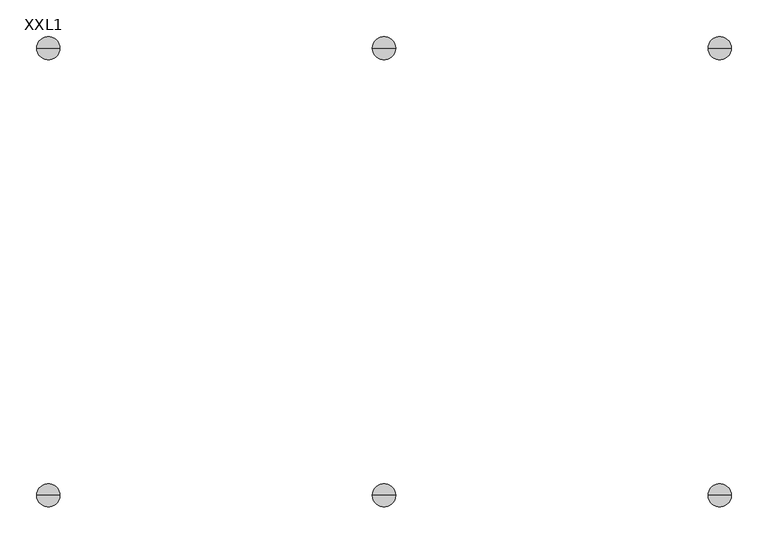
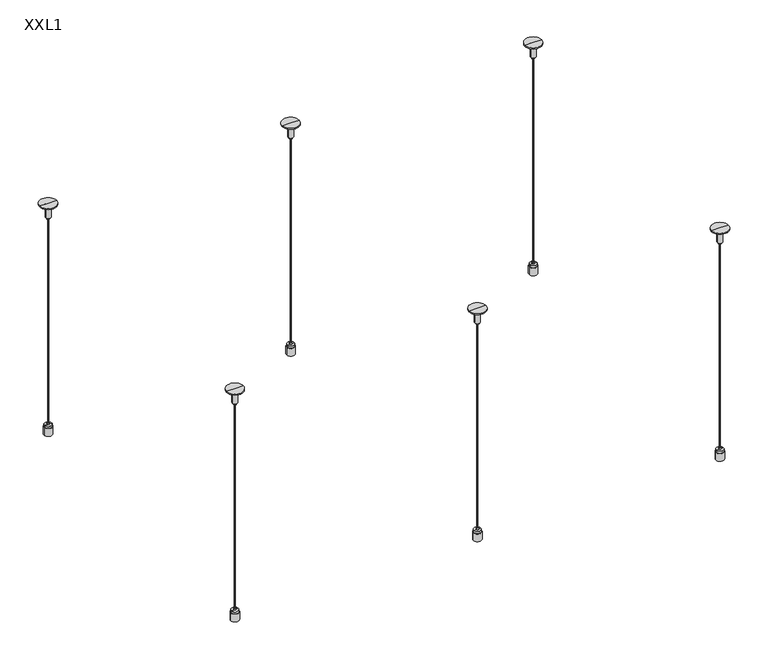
"""IFC4 building model written with IfcOpenShell, lengths in millimetres: proxy geometry, OWA Corpus : XXL1."""

from ifc_helpers import new_model, si_unit, point, frame, frame_2d, origin, place, context, project, spatial, polyline, circle_curve, trimmed, segment, composite_curve, outline, extrude, source, transform, mapped, element, save
from ifc_brep_helpers import plane_surface, cylinder_surface, revolved_surface, advanced_brep


def xxl1_c829c97f(model_context):
    return source(origin(), model_context, "Body", "SolidModel", [
        advanced_brep(
        [(481.5, -305.0, 0.0), (489.2406175, -305.0, 0.0), (473.7593825, -305.0, 0.0), (489.2406175, -305.0, 15.0), (473.7593825, -305.0, 15.0), (488.3156175, -305.0, 15.0), (474.6843825, -305.0, 15.0), (488.3156175, -305.0, 19.0), (474.6843825, -305.0, 19.0), (483.5656175, -305.0, 19.0), (479.4343825, -305.0, 19.0), (483.5656175, -305.0, 22.546183), (479.4343825, -305.0, 22.546183), (481.5, -305.0, 22.546183)],
        [
            (0, 1),
            (1, 2, circle_curve(frame((481.5, -305.0, 0.0), z_axis=(0.0, 0.0, -1.0), x_axis=(-1.0, 0.0, 0.0)), 7.7406175)),
            (2, 0),
            (2, 1, circle_curve(frame((481.5, -305.0, 0.0), z_axis=(0.0, 0.0, -1.0), x_axis=(-1.0, 0.0, 0.0)), 7.7406175)),
            (1, 3),
            (3, 4, circle_curve(frame((481.5, -305.0, 15.0), z_axis=(0.0, 0.0, -1.0), x_axis=(-1.0, 0.0, 0.0)), 7.7406175)),
            (4, 2),
            (4, 3, circle_curve(frame((481.5, -305.0, 15.0), z_axis=(0.0, 0.0, -1.0), x_axis=(-1.0, 0.0, 0.0)), 7.7406175)),
            (3, 5),
            (5, 6, circle_curve(frame((481.5, -305.0, 15.0), z_axis=(0.0, 0.0, -1.0), x_axis=(-1.0, 0.0, 0.0)), 6.8156175)),
            (6, 4),
            (6, 5, circle_curve(frame((481.5, -305.0, 15.0), z_axis=(0.0, 0.0, -1.0), x_axis=(-1.0, 0.0, 0.0)), 6.8156175)),
            (5, 7),
            (7, 8, circle_curve(frame((481.5, -305.0, 19.0), z_axis=(0.0, 0.0, -1.0), x_axis=(-1.0, 0.0, 0.0)), 6.8156175)),
            (8, 6),
            (8, 7, circle_curve(frame((481.5, -305.0, 19.0), z_axis=(0.0, 0.0, -1.0), x_axis=(-1.0, 0.0, 0.0)), 6.8156175)),
            (7, 9),
            (9, 10, circle_curve(frame((481.5, -305.0, 19.0), z_axis=(0.0, 0.0, -1.0), x_axis=(-1.0, 0.0, 0.0)), 2.0656175)),
            (10, 8),
            (10, 9, circle_curve(frame((481.5, -305.0, 19.0), z_axis=(0.0, 0.0, -1.0), x_axis=(-1.0, 0.0, 0.0)), 2.0656175)),
            (9, 11),
            (11, 12, circle_curve(frame((481.5, -305.0, 22.546183), z_axis=(0.0, 0.0, -1.0), x_axis=(-1.0, 0.0, 0.0)), 2.0656175)),
            (12, 10),
            (12, 11, circle_curve(frame((481.5, -305.0, 22.546183), z_axis=(0.0, 0.0, -1.0), x_axis=(-1.0, 0.0, 0.0)), 2.0656175)),
            (11, 13),
            (13, 12),
        ],
        [
            plane_surface(frame((481.5, -305.0, 0.0), z_axis=(0.0, 0.0, -1.0), x_axis=(-1.0, 0.0, 0.0))),
            cylinder_surface(frame((481.5, -305.0, -10.0), z_axis=(0.0, 0.0, -1.0), x_axis=(-1.0, 0.0, 0.0)), 7.7406175),
            plane_surface(frame((481.5, -305.0, 15.0), z_axis=(0.0, 0.0, 1.0), x_axis=(-1.0, 0.0, 0.0))),
            cylinder_surface(frame((481.5, -305.0, -10.0), z_axis=(0.0, 0.0, -1.0), x_axis=(-1.0, 0.0, 0.0)), 6.8156175),
            plane_surface(frame((481.5, -305.0, 19.0), z_axis=(0.0, 0.0, 1.0), x_axis=(-1.0, 0.0, 0.0))),
            cylinder_surface(frame((481.5, -305.0, -10.0), z_axis=(0.0, 0.0, -1.0), x_axis=(-1.0, 0.0, 0.0)), 2.0656175),
            plane_surface(frame((481.5, -305.0, 22.546183), z_axis=(0.0, 0.0, 1.0), x_axis=(-1.0, 0.0, 0.0))),
        ],
        [
            (0, [[1, 2, 3]]),
            (0, [[-3, 4, -1]]),
            (1, [[5, 6, 7, -2]]),
            (1, [[-7, 8, -5, -4]]),
            (2, [[9, 10, 11, -6]]),
            (2, [[-11, 12, -9, -8]]),
            (3, [[13, 14, 15, -10]]),
            (3, [[-15, 16, -13, -12]]),
            (4, [[17, 18, 19, -14]]),
            (4, [[-19, 20, -17, -16]]),
            (5, [[21, 22, 23, -18]]),
            (5, [[-23, 24, -21, -20]]),
            (6, [[25, 26, -22]]),
            (6, [[-26, -25, -24]]),
        ],
    ),
        advanced_brep(
        [(483.7384611, -305.0, 428.8211737), (483.8660547, -305.0, 432.8711737), (479.1339453, -305.0, 432.8711737), (479.2615389, -305.0, 428.8211737), (486.3660547, -305.0, 432.8711737), (476.6339453, -305.0, 432.8711737), (486.3660547, -305.0, 458.1211737), (476.6339453, -305.0, 458.1211737), (497.3660547, -305.0, 458.1211737), (465.6339453, -305.0, 458.1211737), (497.3660547, -305.0, 460.0), (465.6339453, -305.0, 460.0), (481.5, -305.0, 460.0), (481.5, -305.0, 428.8211737)],
        [
            (0, 1),
            (1, 2, circle_curve(frame((481.5, -305.0, 432.8711737), z_axis=(0.0, 0.0, -1.0), x_axis=(-1.0, 0.0, 0.0)), 2.3660547)),
            (2, 3),
            (3, 0, circle_curve(frame((481.5, -305.0, 428.8211737), z_axis=(0.0, 0.0, 1.0), x_axis=(-1.0, 0.0, 0.0)), 2.2384611)),
            (2, 1, circle_curve(frame((481.5, -305.0, 432.8711737), z_axis=(0.0, 0.0, -1.0), x_axis=(-1.0, 0.0, 0.0)), 2.3660547)),
            (0, 3, circle_curve(frame((481.5, -305.0, 428.8211737), z_axis=(0.0, 0.0, 1.0), x_axis=(-1.0, 0.0, 0.0)), 2.2384611)),
            (1, 4),
            (4, 5, circle_curve(frame((481.5, -305.0, 432.8711737), z_axis=(0.0, 0.0, -1.0), x_axis=(-1.0, 0.0, 0.0)), 4.8660547)),
            (5, 2),
            (5, 4, circle_curve(frame((481.5, -305.0, 432.8711737), z_axis=(0.0, 0.0, -1.0), x_axis=(-1.0, 0.0, 0.0)), 4.8660547)),
            (4, 6),
            (6, 7, circle_curve(frame((481.5, -305.0, 458.1211737), z_axis=(0.0, 0.0, -1.0), x_axis=(-1.0, 0.0, 0.0)), 4.8660547)),
            (7, 5),
            (7, 6, circle_curve(frame((481.5, -305.0, 458.1211737), z_axis=(0.0, 0.0, -1.0), x_axis=(-1.0, 0.0, 0.0)), 4.8660547)),
            (6, 8),
            (8, 9, circle_curve(frame((481.5, -305.0, 458.1211737), z_axis=(0.0, 0.0, -1.0), x_axis=(-1.0, 0.0, 0.0)), 15.8660547)),
            (9, 7),
            (9, 8, circle_curve(frame((481.5, -305.0, 458.1211737), z_axis=(0.0, 0.0, -1.0), x_axis=(-1.0, 0.0, 0.0)), 15.8660547)),
            (8, 10),
            (10, 11, circle_curve(frame((481.5, -305.0, 460.0), z_axis=(0.0, 0.0, -1.0), x_axis=(-1.0, 0.0, 0.0)), 15.8660547)),
            (11, 9),
            (11, 10, circle_curve(frame((481.5, -305.0, 460.0), z_axis=(0.0, 0.0, -1.0), x_axis=(-1.0, 0.0, 0.0)), 15.8660547)),
            (10, 12),
            (12, 11),
            (13, 0),
            (3, 13),
        ],
        [
            revolved_surface(polyline([(479.1339453, -305.0, 432.8711737), (479.2615389, -305.0, 428.8211737)]), (481.5, -305.0, 461.8401096), (0.0, 0.0, -1.0)),
            plane_surface(frame((481.5, -305.0, 432.8711737), z_axis=(0.0, 0.0, -1.0), x_axis=(-1.0, 0.0, 0.0))),
            cylinder_surface(frame((481.5, -305.0, 461.8401096), z_axis=(0.0, 0.0, -1.0), x_axis=(-1.0, 0.0, 0.0)), 4.8660547),
            plane_surface(frame((481.5, -305.0, 458.1211737), z_axis=(0.0, 0.0, -1.0), x_axis=(-1.0, 0.0, 0.0))),
            cylinder_surface(frame((481.5, -305.0, 461.8401096), z_axis=(0.0, 0.0, -1.0), x_axis=(-1.0, 0.0, 0.0)), 15.8660547),
            plane_surface(frame((481.5, -305.0, 460.0), z_axis=(0.0, 0.0, 1.0), x_axis=(-1.0, 0.0, 0.0))),
            plane_surface(frame((481.5, -305.0, 428.8211737), z_axis=(0.0, 0.0, -1.0), x_axis=(-1.0, 0.0, 0.0))),
        ],
        [
            (0, [[1, 2, 3, 4]]),
            (0, [[-3, 5, -1, 6]]),
            (1, [[7, 8, 9, -2]]),
            (1, [[-9, 10, -7, -5]]),
            (2, [[11, 12, 13, -8]]),
            (2, [[-13, 14, -11, -10]]),
            (3, [[15, 16, 17, -12]]),
            (3, [[-17, 18, -15, -14]]),
            (4, [[19, 20, 21, -16]]),
            (4, [[-21, 22, -19, -18]]),
            (5, [[23, 24, -20]]),
            (5, [[-24, -23, -22]]),
            (6, [[25, -4, 26]]),
            (6, [[-26, -6, -25]]),
        ],
    ),
        extrude(outline(composite_curve([segment(trimmed(circle_curve(frame_2d((481.5, -305.0)), 1.0), [point((480.5, -305.0))], [point((482.5, -305.0))], False, "CARTESIAN"), True, "CONTINUOUS"), segment(trimmed(circle_curve(frame_2d((481.5, -305.0)), 1.0), [point((482.5, -305.0))], [point((480.5, -305.0))], False, "CARTESIAN"), True, "CONTINUOUS")], self_intersect=False)), frame((0.0, 0.0, 22.546183), z_axis=(0.0, 0.0, 1.0), x_axis=(1.0, 0.0, 0.0)), (0.0, 0.0, 1.0), 406.2749908),
        advanced_brep(
        [(481.5, 305.0, 0.0), (473.7593825, 305.0, 0.0), (489.2406175, 305.0, 0.0), (473.7593825, 305.0, 15.0), (489.2406175, 305.0, 15.0), (474.6843825, 305.0, 15.0), (488.3156175, 305.0, 15.0), (474.6843825, 305.0, 19.0), (488.3156175, 305.0, 19.0), (479.4343825, 305.0, 19.0), (483.5656175, 305.0, 19.0), (479.4343825, 305.0, 22.546183), (483.5656175, 305.0, 22.546183), (481.5, 305.0, 22.546183)],
        [
            (0, 1),
            (1, 2, circle_curve(frame((481.5, 305.0, 0.0), z_axis=(0.0, 0.0, -1.0), x_axis=(-1.0, 0.0, 0.0)), 7.7406175)),
            (2, 0),
            (2, 1, circle_curve(frame((481.5, 305.0, 0.0), z_axis=(0.0, 0.0, -1.0), x_axis=(-1.0, 0.0, 0.0)), 7.7406175)),
            (1, 3),
            (3, 4, circle_curve(frame((481.5, 305.0, 15.0), z_axis=(0.0, 0.0, -1.0), x_axis=(-1.0, 0.0, 0.0)), 7.7406175)),
            (4, 2),
            (4, 3, circle_curve(frame((481.5, 305.0, 15.0), z_axis=(0.0, 0.0, -1.0), x_axis=(-1.0, 0.0, 0.0)), 7.7406175)),
            (3, 5),
            (5, 6, circle_curve(frame((481.5, 305.0, 15.0), z_axis=(0.0, 0.0, -1.0), x_axis=(-1.0, 0.0, 0.0)), 6.8156175)),
            (6, 4),
            (6, 5, circle_curve(frame((481.5, 305.0, 15.0), z_axis=(0.0, 0.0, -1.0), x_axis=(-1.0, 0.0, 0.0)), 6.8156175)),
            (5, 7),
            (7, 8, circle_curve(frame((481.5, 305.0, 19.0), z_axis=(0.0, 0.0, -1.0), x_axis=(-1.0, 0.0, 0.0)), 6.8156175)),
            (8, 6),
            (8, 7, circle_curve(frame((481.5, 305.0, 19.0), z_axis=(0.0, 0.0, -1.0), x_axis=(-1.0, 0.0, 0.0)), 6.8156175)),
            (7, 9),
            (9, 10, circle_curve(frame((481.5, 305.0, 19.0), z_axis=(0.0, 0.0, -1.0), x_axis=(-1.0, 0.0, 0.0)), 2.0656175)),
            (10, 8),
            (10, 9, circle_curve(frame((481.5, 305.0, 19.0), z_axis=(0.0, 0.0, -1.0), x_axis=(-1.0, 0.0, 0.0)), 2.0656175)),
            (9, 11),
            (11, 12, circle_curve(frame((481.5, 305.0, 22.546183), z_axis=(0.0, 0.0, -1.0), x_axis=(-1.0, 0.0, 0.0)), 2.0656175)),
            (12, 10),
            (12, 11, circle_curve(frame((481.5, 305.0, 22.546183), z_axis=(0.0, 0.0, -1.0), x_axis=(-1.0, 0.0, 0.0)), 2.0656175)),
            (11, 13),
            (13, 12),
        ],
        [
            plane_surface(frame((481.5, 305.0, 0.0), z_axis=(0.0, 0.0, -1.0), x_axis=(-1.0, 0.0, 0.0))),
            cylinder_surface(frame((481.5, 305.0, -10.0), z_axis=(0.0, 0.0, -1.0), x_axis=(-1.0, 0.0, 0.0)), 7.7406175),
            plane_surface(frame((481.5, 305.0, 15.0), z_axis=(0.0, 0.0, 1.0), x_axis=(-1.0, 0.0, 0.0))),
            cylinder_surface(frame((481.5, 305.0, -10.0), z_axis=(0.0, 0.0, -1.0), x_axis=(-1.0, 0.0, 0.0)), 6.8156175),
            plane_surface(frame((481.5, 305.0, 19.0), z_axis=(0.0, 0.0, 1.0), x_axis=(-1.0, 0.0, 0.0))),
            cylinder_surface(frame((481.5, 305.0, -10.0), z_axis=(0.0, 0.0, -1.0), x_axis=(-1.0, 0.0, 0.0)), 2.0656175),
            plane_surface(frame((481.5, 305.0, 22.546183), z_axis=(0.0, 0.0, 1.0), x_axis=(-1.0, 0.0, 0.0))),
        ],
        [
            (0, [[1, 2, 3]]),
            (0, [[-3, 4, -1]]),
            (1, [[-2, 5, 6, 7]]),
            (1, [[-4, -7, 8, -5]]),
            (2, [[-6, 9, 10, 11]]),
            (2, [[-8, -11, 12, -9]]),
            (3, [[-10, 13, 14, 15]]),
            (3, [[-12, -15, 16, -13]]),
            (4, [[-14, 17, 18, 19]]),
            (4, [[-16, -19, 20, -17]]),
            (5, [[-18, 21, 22, 23]]),
            (5, [[-20, -23, 24, -21]]),
            (6, [[-22, 25, 26]]),
            (6, [[-24, -26, -25]]),
        ],
    ),
        advanced_brep(
        [(483.7384611, 305.0, 428.8211737), (479.2615389, 305.0, 428.8211737), (479.1339453, 305.0, 432.8711737), (483.8660547, 305.0, 432.8711737), (476.6339453, 305.0, 432.8711737), (486.3660547, 305.0, 432.8711737), (476.6339453, 305.0, 458.1211737), (486.3660547, 305.0, 458.1211737), (465.6339453, 305.0, 458.1211737), (497.3660547, 305.0, 458.1211737), (465.6339453, 305.0, 460.0), (497.3660547, 305.0, 460.0), (481.5, 305.0, 460.0), (481.5, 305.0, 428.8211737)],
        [
            (0, 1, circle_curve(frame((481.5, 305.0, 428.8211737), z_axis=(0.0, 0.0, 1.0), x_axis=(-1.0, 0.0, 0.0)), 2.2384611)),
            (1, 2),
            (2, 3, circle_curve(frame((481.5, 305.0, 432.8711737), z_axis=(0.0, 0.0, -1.0), x_axis=(-1.0, 0.0, 0.0)), 2.3660547)),
            (3, 0),
            (1, 0, circle_curve(frame((481.5, 305.0, 428.8211737), z_axis=(0.0, 0.0, 1.0), x_axis=(-1.0, 0.0, 0.0)), 2.2384611)),
            (3, 2, circle_curve(frame((481.5, 305.0, 432.8711737), z_axis=(0.0, 0.0, -1.0), x_axis=(-1.0, 0.0, 0.0)), 2.3660547)),
            (2, 4),
            (4, 5, circle_curve(frame((481.5, 305.0, 432.8711737), z_axis=(0.0, 0.0, -1.0), x_axis=(-1.0, 0.0, 0.0)), 4.8660547)),
            (5, 3),
            (5, 4, circle_curve(frame((481.5, 305.0, 432.8711737), z_axis=(0.0, 0.0, -1.0), x_axis=(-1.0, 0.0, 0.0)), 4.8660547)),
            (4, 6),
            (6, 7, circle_curve(frame((481.5, 305.0, 458.1211737), z_axis=(0.0, 0.0, -1.0), x_axis=(-1.0, 0.0, 0.0)), 4.8660547)),
            (7, 5),
            (7, 6, circle_curve(frame((481.5, 305.0, 458.1211737), z_axis=(0.0, 0.0, -1.0), x_axis=(-1.0, 0.0, 0.0)), 4.8660547)),
            (6, 8),
            (8, 9, circle_curve(frame((481.5, 305.0, 458.1211737), z_axis=(0.0, 0.0, -1.0), x_axis=(-1.0, 0.0, 0.0)), 15.8660547)),
            (9, 7),
            (9, 8, circle_curve(frame((481.5, 305.0, 458.1211737), z_axis=(0.0, 0.0, -1.0), x_axis=(-1.0, 0.0, 0.0)), 15.8660547)),
            (8, 10),
            (10, 11, circle_curve(frame((481.5, 305.0, 460.0), z_axis=(0.0, 0.0, -1.0), x_axis=(-1.0, 0.0, 0.0)), 15.8660547)),
            (11, 9),
            (11, 10, circle_curve(frame((481.5, 305.0, 460.0), z_axis=(0.0, 0.0, -1.0), x_axis=(-1.0, 0.0, 0.0)), 15.8660547)),
            (10, 12),
            (12, 11),
            (13, 1),
            (0, 13),
        ],
        [
            revolved_surface(polyline([(479.1339453, 305.0, 432.8711737), (479.2615389, 305.0, 428.8211737)]), (481.5, 305.0, 461.8401096), (0.0, 0.0, -1.0)),
            plane_surface(frame((481.5, 305.0, 432.8711737), z_axis=(0.0, 0.0, -1.0), x_axis=(-1.0, 0.0, 0.0))),
            cylinder_surface(frame((481.5, 305.0, 461.8401096), z_axis=(0.0, 0.0, -1.0), x_axis=(-1.0, 0.0, 0.0)), 4.8660547),
            plane_surface(frame((481.5, 305.0, 458.1211737), z_axis=(0.0, 0.0, -1.0), x_axis=(-1.0, 0.0, 0.0))),
            cylinder_surface(frame((481.5, 305.0, 461.8401096), z_axis=(0.0, 0.0, -1.0), x_axis=(-1.0, 0.0, 0.0)), 15.8660547),
            plane_surface(frame((481.5, 305.0, 460.0), z_axis=(0.0, 0.0, 1.0), x_axis=(-1.0, 0.0, 0.0))),
            plane_surface(frame((481.5, 305.0, 428.8211737), z_axis=(0.0, 0.0, -1.0), x_axis=(-1.0, 0.0, 0.0))),
        ],
        [
            (0, [[1, 2, 3, 4]]),
            (0, [[5, -4, 6, -2]]),
            (1, [[-3, 7, 8, 9]]),
            (1, [[-6, -9, 10, -7]]),
            (2, [[-8, 11, 12, 13]]),
            (2, [[-10, -13, 14, -11]]),
            (3, [[-12, 15, 16, 17]]),
            (3, [[-14, -17, 18, -15]]),
            (4, [[-16, 19, 20, 21]]),
            (4, [[-18, -21, 22, -19]]),
            (5, [[-20, 23, 24]]),
            (5, [[-22, -24, -23]]),
            (6, [[25, -1, 26]]),
            (6, [[-26, -5, -25]]),
        ],
    ),
        extrude(outline(composite_curve([segment(trimmed(circle_curve(frame_2d((481.5, 305.0)), 1.0), [point((480.5, 305.0))], [point((482.5, 305.0))], False, "CARTESIAN"), True, "CONTINUOUS"), segment(trimmed(circle_curve(frame_2d((481.5, 305.0)), 1.0), [point((482.5, 305.0))], [point((480.5, 305.0))], False, "CARTESIAN"), True, "CONTINUOUS")], self_intersect=False)), frame((0.0, 0.0, 22.546183), z_axis=(0.0, 0.0, 1.0), x_axis=(1.0, 0.0, 0.0)), (0.0, 0.0, 1.0), 406.2749908),
        advanced_brep(
        [(24.0, -305.0, 0.0), (31.7406175, -305.0, 0.0), (16.2593825, -305.0, 0.0), (31.7406175, -305.0, 15.0), (16.2593825, -305.0, 15.0), (30.8156175, -305.0, 15.0), (17.1843825, -305.0, 15.0), (30.8156175, -305.0, 19.0), (17.1843825, -305.0, 19.0), (26.0656175, -305.0, 19.0), (21.9343825, -305.0, 19.0), (26.0656175, -305.0, 22.546183), (21.9343825, -305.0, 22.546183), (24.0, -305.0, 22.546183)],
        [
            (0, 1),
            (1, 2, circle_curve(frame((24.0, -305.0, 0.0), z_axis=(0.0, 0.0, -1.0), x_axis=(-1.0, 0.0, 0.0)), 7.7406175)),
            (2, 0),
            (2, 1, circle_curve(frame((24.0, -305.0, 0.0), z_axis=(0.0, 0.0, -1.0), x_axis=(-1.0, 0.0, 0.0)), 7.7406175)),
            (1, 3),
            (3, 4, circle_curve(frame((24.0, -305.0, 15.0), z_axis=(0.0, 0.0, -1.0), x_axis=(-1.0, 0.0, 0.0)), 7.7406175)),
            (4, 2),
            (4, 3, circle_curve(frame((24.0, -305.0, 15.0), z_axis=(0.0, 0.0, -1.0), x_axis=(-1.0, 0.0, 0.0)), 7.7406175)),
            (3, 5),
            (5, 6, circle_curve(frame((24.0, -305.0, 15.0), z_axis=(0.0, 0.0, -1.0), x_axis=(-1.0, 0.0, 0.0)), 6.8156175)),
            (6, 4),
            (6, 5, circle_curve(frame((24.0, -305.0, 15.0), z_axis=(0.0, 0.0, -1.0), x_axis=(-1.0, 0.0, 0.0)), 6.8156175)),
            (5, 7),
            (7, 8, circle_curve(frame((24.0, -305.0, 19.0), z_axis=(0.0, 0.0, -1.0), x_axis=(-1.0, 0.0, 0.0)), 6.8156175)),
            (8, 6),
            (8, 7, circle_curve(frame((24.0, -305.0, 19.0), z_axis=(0.0, 0.0, -1.0), x_axis=(-1.0, 0.0, 0.0)), 6.8156175)),
            (7, 9),
            (9, 10, circle_curve(frame((24.0, -305.0, 19.0), z_axis=(0.0, 0.0, -1.0), x_axis=(-1.0, 0.0, 0.0)), 2.0656175)),
            (10, 8),
            (10, 9, circle_curve(frame((24.0, -305.0, 19.0), z_axis=(0.0, 0.0, -1.0), x_axis=(-1.0, 0.0, 0.0)), 2.0656175)),
            (9, 11),
            (11, 12, circle_curve(frame((24.0, -305.0, 22.546183), z_axis=(0.0, 0.0, -1.0), x_axis=(-1.0, 0.0, 0.0)), 2.0656175)),
            (12, 10),
            (12, 11, circle_curve(frame((24.0, -305.0, 22.546183), z_axis=(0.0, 0.0, -1.0), x_axis=(-1.0, 0.0, 0.0)), 2.0656175)),
            (11, 13),
            (13, 12),
        ],
        [
            plane_surface(frame((24.0, -305.0, 0.0), z_axis=(0.0, 0.0, -1.0), x_axis=(-1.0, 0.0, 0.0))),
            cylinder_surface(frame((24.0, -305.0, -10.0), z_axis=(0.0, 0.0, -1.0), x_axis=(-1.0, 0.0, 0.0)), 7.7406175),
            plane_surface(frame((24.0, -305.0, 15.0), z_axis=(0.0, 0.0, 1.0), x_axis=(-1.0, 0.0, 0.0))),
            cylinder_surface(frame((24.0, -305.0, -10.0), z_axis=(0.0, 0.0, -1.0), x_axis=(-1.0, 0.0, 0.0)), 6.8156175),
            plane_surface(frame((24.0, -305.0, 19.0), z_axis=(0.0, 0.0, 1.0), x_axis=(-1.0, 0.0, 0.0))),
            cylinder_surface(frame((24.0, -305.0, -10.0), z_axis=(0.0, 0.0, -1.0), x_axis=(-1.0, 0.0, 0.0)), 2.0656175),
            plane_surface(frame((24.0, -305.0, 22.546183), z_axis=(0.0, 0.0, 1.0), x_axis=(-1.0, 0.0, 0.0))),
        ],
        [
            (0, [[1, 2, 3]]),
            (0, [[-3, 4, -1]]),
            (1, [[5, 6, 7, -2]]),
            (1, [[-7, 8, -5, -4]]),
            (2, [[9, 10, 11, -6]]),
            (2, [[-11, 12, -9, -8]]),
            (3, [[13, 14, 15, -10]]),
            (3, [[-15, 16, -13, -12]]),
            (4, [[17, 18, 19, -14]]),
            (4, [[-19, 20, -17, -16]]),
            (5, [[21, 22, 23, -18]]),
            (5, [[-23, 24, -21, -20]]),
            (6, [[25, 26, -22]]),
            (6, [[-26, -25, -24]]),
        ],
    ),
        advanced_brep(
        [(26.2384611, -305.0, 428.8211737), (26.3660547, -305.0, 432.8711737), (21.6339453, -305.0, 432.8711737), (21.7615389, -305.0, 428.8211737), (28.8660547, -305.0, 432.8711737), (19.1339453, -305.0, 432.8711737), (28.8660547, -305.0, 458.1211737), (19.1339453, -305.0, 458.1211737), (39.8660547, -305.0, 458.1211737), (8.1339453, -305.0, 458.1211737), (39.8660547, -305.0, 460.0), (8.1339453, -305.0, 460.0), (24.0, -305.0, 460.0), (24.0, -305.0, 428.8211737)],
        [
            (0, 1),
            (1, 2, circle_curve(frame((24.0, -305.0, 432.8711737), z_axis=(0.0, 0.0, -1.0), x_axis=(-1.0, 0.0, 0.0)), 2.3660547)),
            (2, 3),
            (3, 0, circle_curve(frame((24.0, -305.0, 428.8211737), z_axis=(0.0, 0.0, 1.0), x_axis=(-1.0, 0.0, 0.0)), 2.2384611)),
            (2, 1, circle_curve(frame((24.0, -305.0, 432.8711737), z_axis=(0.0, 0.0, -1.0), x_axis=(-1.0, 0.0, 0.0)), 2.3660547)),
            (0, 3, circle_curve(frame((24.0, -305.0, 428.8211737), z_axis=(0.0, 0.0, 1.0), x_axis=(-1.0, 0.0, 0.0)), 2.2384611)),
            (1, 4),
            (4, 5, circle_curve(frame((24.0, -305.0, 432.8711737), z_axis=(0.0, 0.0, -1.0), x_axis=(-1.0, 0.0, 0.0)), 4.8660547)),
            (5, 2),
            (5, 4, circle_curve(frame((24.0, -305.0, 432.8711737), z_axis=(0.0, 0.0, -1.0), x_axis=(-1.0, 0.0, 0.0)), 4.8660547)),
            (4, 6),
            (6, 7, circle_curve(frame((24.0, -305.0, 458.1211737), z_axis=(0.0, 0.0, -1.0), x_axis=(-1.0, 0.0, 0.0)), 4.8660547)),
            (7, 5),
            (7, 6, circle_curve(frame((24.0, -305.0, 458.1211737), z_axis=(0.0, 0.0, -1.0), x_axis=(-1.0, 0.0, 0.0)), 4.8660547)),
            (6, 8),
            (8, 9, circle_curve(frame((24.0, -305.0, 458.1211737), z_axis=(0.0, 0.0, -1.0), x_axis=(-1.0, 0.0, 0.0)), 15.8660547)),
            (9, 7),
            (9, 8, circle_curve(frame((24.0, -305.0, 458.1211737), z_axis=(0.0, 0.0, -1.0), x_axis=(-1.0, 0.0, 0.0)), 15.8660547)),
            (8, 10),
            (10, 11, circle_curve(frame((24.0, -305.0, 460.0), z_axis=(0.0, 0.0, -1.0), x_axis=(-1.0, 0.0, 0.0)), 15.8660547)),
            (11, 9),
            (11, 10, circle_curve(frame((24.0, -305.0, 460.0), z_axis=(0.0, 0.0, -1.0), x_axis=(-1.0, 0.0, 0.0)), 15.8660547)),
            (10, 12),
            (12, 11),
            (13, 0),
            (3, 13),
        ],
        [
            revolved_surface(polyline([(21.6339453, -305.0, 432.8711737), (21.7615389, -305.0, 428.8211737)]), (24.0, -305.0, 461.8401096), (0.0, 0.0, -1.0)),
            plane_surface(frame((24.0, -305.0, 432.8711737), z_axis=(0.0, 0.0, -1.0), x_axis=(-1.0, 0.0, 0.0))),
            cylinder_surface(frame((24.0, -305.0, 461.8401096), z_axis=(0.0, 0.0, -1.0), x_axis=(-1.0, 0.0, 0.0)), 4.8660547),
            plane_surface(frame((24.0, -305.0, 458.1211737), z_axis=(0.0, 0.0, -1.0), x_axis=(-1.0, 0.0, 0.0))),
            cylinder_surface(frame((24.0, -305.0, 461.8401096), z_axis=(0.0, 0.0, -1.0), x_axis=(-1.0, 0.0, 0.0)), 15.8660547),
            plane_surface(frame((24.0, -305.0, 460.0), z_axis=(0.0, 0.0, 1.0), x_axis=(-1.0, 0.0, 0.0))),
            plane_surface(frame((24.0, -305.0, 428.8211737), z_axis=(0.0, 0.0, -1.0), x_axis=(-1.0, 0.0, 0.0))),
        ],
        [
            (0, [[1, 2, 3, 4]]),
            (0, [[-3, 5, -1, 6]]),
            (1, [[7, 8, 9, -2]]),
            (1, [[-9, 10, -7, -5]]),
            (2, [[11, 12, 13, -8]]),
            (2, [[-13, 14, -11, -10]]),
            (3, [[15, 16, 17, -12]]),
            (3, [[-17, 18, -15, -14]]),
            (4, [[19, 20, 21, -16]]),
            (4, [[-21, 22, -19, -18]]),
            (5, [[23, 24, -20]]),
            (5, [[-24, -23, -22]]),
            (6, [[25, -4, 26]]),
            (6, [[-26, -6, -25]]),
        ],
    ),
        extrude(outline(composite_curve([segment(trimmed(circle_curve(frame_2d((24.0, -305.0)), 1.0), [point((23.0, -305.0))], [point((25.0, -305.0))], False, "CARTESIAN"), True, "CONTINUOUS"), segment(trimmed(circle_curve(frame_2d((24.0, -305.0)), 1.0), [point((25.0, -305.0))], [point((23.0, -305.0))], False, "CARTESIAN"), True, "CONTINUOUS")], self_intersect=False)), frame((0.0, 0.0, 22.546183), z_axis=(0.0, 0.0, 1.0), x_axis=(1.0, 0.0, 0.0)), (0.0, 0.0, 1.0), 406.2749908),
        advanced_brep(
        [(24.0, 305.0, 0.0), (16.2593825, 305.0, 0.0), (31.7406175, 305.0, 0.0), (16.2593825, 305.0, 15.0), (31.7406175, 305.0, 15.0), (17.1843825, 305.0, 15.0), (30.8156175, 305.0, 15.0), (17.1843825, 305.0, 19.0), (30.8156175, 305.0, 19.0), (21.9343825, 305.0, 19.0), (26.0656175, 305.0, 19.0), (21.9343825, 305.0, 22.546183), (26.0656175, 305.0, 22.546183), (24.0, 305.0, 22.546183)],
        [
            (0, 1),
            (1, 2, circle_curve(frame((24.0, 305.0, 0.0), z_axis=(0.0, 0.0, -1.0), x_axis=(-1.0, 0.0, 0.0)), 7.7406175)),
            (2, 0),
            (2, 1, circle_curve(frame((24.0, 305.0, 0.0), z_axis=(0.0, 0.0, -1.0), x_axis=(-1.0, 0.0, 0.0)), 7.7406175)),
            (1, 3),
            (3, 4, circle_curve(frame((24.0, 305.0, 15.0), z_axis=(0.0, 0.0, -1.0), x_axis=(-1.0, 0.0, 0.0)), 7.7406175)),
            (4, 2),
            (4, 3, circle_curve(frame((24.0, 305.0, 15.0), z_axis=(0.0, 0.0, -1.0), x_axis=(-1.0, 0.0, 0.0)), 7.7406175)),
            (3, 5),
            (5, 6, circle_curve(frame((24.0, 305.0, 15.0), z_axis=(0.0, 0.0, -1.0), x_axis=(-1.0, 0.0, 0.0)), 6.8156175)),
            (6, 4),
            (6, 5, circle_curve(frame((24.0, 305.0, 15.0), z_axis=(0.0, 0.0, -1.0), x_axis=(-1.0, 0.0, 0.0)), 6.8156175)),
            (5, 7),
            (7, 8, circle_curve(frame((24.0, 305.0, 19.0), z_axis=(0.0, 0.0, -1.0), x_axis=(-1.0, 0.0, 0.0)), 6.8156175)),
            (8, 6),
            (8, 7, circle_curve(frame((24.0, 305.0, 19.0), z_axis=(0.0, 0.0, -1.0), x_axis=(-1.0, 0.0, 0.0)), 6.8156175)),
            (7, 9),
            (9, 10, circle_curve(frame((24.0, 305.0, 19.0), z_axis=(0.0, 0.0, -1.0), x_axis=(-1.0, 0.0, 0.0)), 2.0656175)),
            (10, 8),
            (10, 9, circle_curve(frame((24.0, 305.0, 19.0), z_axis=(0.0, 0.0, -1.0), x_axis=(-1.0, 0.0, 0.0)), 2.0656175)),
            (9, 11),
            (11, 12, circle_curve(frame((24.0, 305.0, 22.546183), z_axis=(0.0, 0.0, -1.0), x_axis=(-1.0, 0.0, 0.0)), 2.0656175)),
            (12, 10),
            (12, 11, circle_curve(frame((24.0, 305.0, 22.546183), z_axis=(0.0, 0.0, -1.0), x_axis=(-1.0, 0.0, 0.0)), 2.0656175)),
            (11, 13),
            (13, 12),
        ],
        [
            plane_surface(frame((24.0, 305.0, 0.0), z_axis=(0.0, 0.0, -1.0), x_axis=(-1.0, 0.0, 0.0))),
            cylinder_surface(frame((24.0, 305.0, -10.0), z_axis=(0.0, 0.0, -1.0), x_axis=(-1.0, 0.0, 0.0)), 7.7406175),
            plane_surface(frame((24.0, 305.0, 15.0), z_axis=(0.0, 0.0, 1.0), x_axis=(-1.0, 0.0, 0.0))),
            cylinder_surface(frame((24.0, 305.0, -10.0), z_axis=(0.0, 0.0, -1.0), x_axis=(-1.0, 0.0, 0.0)), 6.8156175),
            plane_surface(frame((24.0, 305.0, 19.0), z_axis=(0.0, 0.0, 1.0), x_axis=(-1.0, 0.0, 0.0))),
            cylinder_surface(frame((24.0, 305.0, -10.0), z_axis=(0.0, 0.0, -1.0), x_axis=(-1.0, 0.0, 0.0)), 2.0656175),
            plane_surface(frame((24.0, 305.0, 22.546183), z_axis=(0.0, 0.0, 1.0), x_axis=(-1.0, 0.0, 0.0))),
        ],
        [
            (0, [[1, 2, 3]]),
            (0, [[-3, 4, -1]]),
            (1, [[-2, 5, 6, 7]]),
            (1, [[-4, -7, 8, -5]]),
            (2, [[-6, 9, 10, 11]]),
            (2, [[-8, -11, 12, -9]]),
            (3, [[-10, 13, 14, 15]]),
            (3, [[-12, -15, 16, -13]]),
            (4, [[-14, 17, 18, 19]]),
            (4, [[-16, -19, 20, -17]]),
            (5, [[-18, 21, 22, 23]]),
            (5, [[-20, -23, 24, -21]]),
            (6, [[-22, 25, 26]]),
            (6, [[-24, -26, -25]]),
        ],
    ),
        advanced_brep(
        [(26.2384611, 305.0, 428.8211737), (21.7615389, 305.0, 428.8211737), (21.6339453, 305.0, 432.8711737), (26.3660547, 305.0, 432.8711737), (19.1339453, 305.0, 432.8711737), (28.8660547, 305.0, 432.8711737), (19.1339453, 305.0, 458.1211737), (28.8660547, 305.0, 458.1211737), (8.1339453, 305.0, 458.1211737), (39.8660547, 305.0, 458.1211737), (8.1339453, 305.0, 460.0), (39.8660547, 305.0, 460.0), (24.0, 305.0, 460.0), (24.0, 305.0, 428.8211737)],
        [
            (0, 1, circle_curve(frame((24.0, 305.0, 428.8211737), z_axis=(0.0, 0.0, 1.0), x_axis=(-1.0, 0.0, 0.0)), 2.2384611)),
            (1, 2),
            (2, 3, circle_curve(frame((24.0, 305.0, 432.8711737), z_axis=(0.0, 0.0, -1.0), x_axis=(-1.0, 0.0, 0.0)), 2.3660547)),
            (3, 0),
            (1, 0, circle_curve(frame((24.0, 305.0, 428.8211737), z_axis=(0.0, 0.0, 1.0), x_axis=(-1.0, 0.0, 0.0)), 2.2384611)),
            (3, 2, circle_curve(frame((24.0, 305.0, 432.8711737), z_axis=(0.0, 0.0, -1.0), x_axis=(-1.0, 0.0, 0.0)), 2.3660547)),
            (2, 4),
            (4, 5, circle_curve(frame((24.0, 305.0, 432.8711737), z_axis=(0.0, 0.0, -1.0), x_axis=(-1.0, 0.0, 0.0)), 4.8660547)),
            (5, 3),
            (5, 4, circle_curve(frame((24.0, 305.0, 432.8711737), z_axis=(0.0, 0.0, -1.0), x_axis=(-1.0, 0.0, 0.0)), 4.8660547)),
            (4, 6),
            (6, 7, circle_curve(frame((24.0, 305.0, 458.1211737), z_axis=(0.0, 0.0, -1.0), x_axis=(-1.0, 0.0, 0.0)), 4.8660547)),
            (7, 5),
            (7, 6, circle_curve(frame((24.0, 305.0, 458.1211737), z_axis=(0.0, 0.0, -1.0), x_axis=(-1.0, 0.0, 0.0)), 4.8660547)),
            (6, 8),
            (8, 9, circle_curve(frame((24.0, 305.0, 458.1211737), z_axis=(0.0, 0.0, -1.0), x_axis=(-1.0, 0.0, 0.0)), 15.8660547)),
            (9, 7),
            (9, 8, circle_curve(frame((24.0, 305.0, 458.1211737), z_axis=(0.0, 0.0, -1.0), x_axis=(-1.0, 0.0, 0.0)), 15.8660547)),
            (8, 10),
            (10, 11, circle_curve(frame((24.0, 305.0, 460.0), z_axis=(0.0, 0.0, -1.0), x_axis=(-1.0, 0.0, 0.0)), 15.8660547)),
            (11, 9),
            (11, 10, circle_curve(frame((24.0, 305.0, 460.0), z_axis=(0.0, 0.0, -1.0), x_axis=(-1.0, 0.0, 0.0)), 15.8660547)),
            (10, 12),
            (12, 11),
            (13, 1),
            (0, 13),
        ],
        [
            revolved_surface(polyline([(21.6339453, 305.0, 432.8711737), (21.7615389, 305.0, 428.8211737)]), (24.0, 305.0, 461.8401096), (0.0, 0.0, -1.0)),
            plane_surface(frame((24.0, 305.0, 432.8711737), z_axis=(0.0, 0.0, -1.0), x_axis=(-1.0, 0.0, 0.0))),
            cylinder_surface(frame((24.0, 305.0, 461.8401096), z_axis=(0.0, 0.0, -1.0), x_axis=(-1.0, 0.0, 0.0)), 4.8660547),
            plane_surface(frame((24.0, 305.0, 458.1211737), z_axis=(0.0, 0.0, -1.0), x_axis=(-1.0, 0.0, 0.0))),
            cylinder_surface(frame((24.0, 305.0, 461.8401096), z_axis=(0.0, 0.0, -1.0), x_axis=(-1.0, 0.0, 0.0)), 15.8660547),
            plane_surface(frame((24.0, 305.0, 460.0), z_axis=(0.0, 0.0, 1.0), x_axis=(-1.0, 0.0, 0.0))),
            plane_surface(frame((24.0, 305.0, 428.8211737), z_axis=(0.0, 0.0, -1.0), x_axis=(-1.0, 0.0, 0.0))),
        ],
        [
            (0, [[1, 2, 3, 4]]),
            (0, [[5, -4, 6, -2]]),
            (1, [[-3, 7, 8, 9]]),
            (1, [[-6, -9, 10, -7]]),
            (2, [[-8, 11, 12, 13]]),
            (2, [[-10, -13, 14, -11]]),
            (3, [[-12, 15, 16, 17]]),
            (3, [[-14, -17, 18, -15]]),
            (4, [[-16, 19, 20, 21]]),
            (4, [[-18, -21, 22, -19]]),
            (5, [[-20, 23, 24]]),
            (5, [[-22, -24, -23]]),
            (6, [[25, -1, 26]]),
            (6, [[-26, -5, -25]]),
        ],
    ),
        extrude(outline(composite_curve([segment(trimmed(circle_curve(frame_2d((24.0, 305.0)), 1.0), [point((23.0, 305.0))], [point((25.0, 305.0))], False, "CARTESIAN"), True, "CONTINUOUS"), segment(trimmed(circle_curve(frame_2d((24.0, 305.0)), 1.0), [point((25.0, 305.0))], [point((23.0, 305.0))], False, "CARTESIAN"), True, "CONTINUOUS")], self_intersect=False)), frame((0.0, 0.0, 22.546183), z_axis=(0.0, 0.0, 1.0), x_axis=(1.0, 0.0, 0.0)), (0.0, 0.0, 1.0), 406.2749908),
        advanced_brep(
        [(-433.5, -305.0, 0.0), (-425.7593825, -305.0, 0.0), (-441.2406175, -305.0, 0.0), (-425.7593825, -305.0, 15.0), (-441.2406175, -305.0, 15.0), (-426.6843825, -305.0, 15.0), (-440.3156175, -305.0, 15.0), (-426.6843825, -305.0, 19.0), (-440.3156175, -305.0, 19.0), (-431.4343825, -305.0, 19.0), (-435.5656175, -305.0, 19.0), (-431.4343825, -305.0, 22.546183), (-435.5656175, -305.0, 22.546183), (-433.5, -305.0, 22.546183)],
        [
            (0, 1),
            (1, 2, circle_curve(frame((-433.5, -305.0, 0.0), z_axis=(0.0, 0.0, -1.0), x_axis=(-1.0, 0.0, 0.0)), 7.7406175)),
            (2, 0),
            (2, 1, circle_curve(frame((-433.5, -305.0, 0.0), z_axis=(0.0, 0.0, -1.0), x_axis=(-1.0, 0.0, 0.0)), 7.7406175)),
            (1, 3),
            (3, 4, circle_curve(frame((-433.5, -305.0, 15.0), z_axis=(0.0, 0.0, -1.0), x_axis=(-1.0, 0.0, 0.0)), 7.7406175)),
            (4, 2),
            (4, 3, circle_curve(frame((-433.5, -305.0, 15.0), z_axis=(0.0, 0.0, -1.0), x_axis=(-1.0, 0.0, 0.0)), 7.7406175)),
            (3, 5),
            (5, 6, circle_curve(frame((-433.5, -305.0, 15.0), z_axis=(0.0, 0.0, -1.0), x_axis=(-1.0, 0.0, 0.0)), 6.8156175)),
            (6, 4),
            (6, 5, circle_curve(frame((-433.5, -305.0, 15.0), z_axis=(0.0, 0.0, -1.0), x_axis=(-1.0, 0.0, 0.0)), 6.8156175)),
            (5, 7),
            (7, 8, circle_curve(frame((-433.5, -305.0, 19.0), z_axis=(0.0, 0.0, -1.0), x_axis=(-1.0, 0.0, 0.0)), 6.8156175)),
            (8, 6),
            (8, 7, circle_curve(frame((-433.5, -305.0, 19.0), z_axis=(0.0, 0.0, -1.0), x_axis=(-1.0, 0.0, 0.0)), 6.8156175)),
            (7, 9),
            (9, 10, circle_curve(frame((-433.5, -305.0, 19.0), z_axis=(0.0, 0.0, -1.0), x_axis=(-1.0, 0.0, 0.0)), 2.0656175)),
            (10, 8),
            (10, 9, circle_curve(frame((-433.5, -305.0, 19.0), z_axis=(0.0, 0.0, -1.0), x_axis=(-1.0, 0.0, 0.0)), 2.0656175)),
            (9, 11),
            (11, 12, circle_curve(frame((-433.5, -305.0, 22.546183), z_axis=(0.0, 0.0, -1.0), x_axis=(-1.0, 0.0, 0.0)), 2.0656175)),
            (12, 10),
            (12, 11, circle_curve(frame((-433.5, -305.0, 22.546183), z_axis=(0.0, 0.0, -1.0), x_axis=(-1.0, 0.0, 0.0)), 2.0656175)),
            (11, 13),
            (13, 12),
        ],
        [
            plane_surface(frame((-433.5, -305.0, 0.0), z_axis=(0.0, 0.0, -1.0), x_axis=(-1.0, 0.0, 0.0))),
            cylinder_surface(frame((-433.5, -305.0, -10.0), z_axis=(0.0, 0.0, -1.0), x_axis=(-1.0, 0.0, 0.0)), 7.7406175),
            plane_surface(frame((-433.5, -305.0, 15.0), z_axis=(0.0, 0.0, 1.0), x_axis=(-1.0, 0.0, 0.0))),
            cylinder_surface(frame((-433.5, -305.0, -10.0), z_axis=(0.0, 0.0, -1.0), x_axis=(-1.0, 0.0, 0.0)), 6.8156175),
            plane_surface(frame((-433.5, -305.0, 19.0), z_axis=(0.0, 0.0, 1.0), x_axis=(-1.0, 0.0, 0.0))),
            cylinder_surface(frame((-433.5, -305.0, -10.0), z_axis=(0.0, 0.0, -1.0), x_axis=(-1.0, 0.0, 0.0)), 2.0656175),
            plane_surface(frame((-433.5, -305.0, 22.546183), z_axis=(0.0, 0.0, 1.0), x_axis=(-1.0, 0.0, 0.0))),
        ],
        [
            (0, [[1, 2, 3]]),
            (0, [[-3, 4, -1]]),
            (1, [[5, 6, 7, -2]]),
            (1, [[-7, 8, -5, -4]]),
            (2, [[9, 10, 11, -6]]),
            (2, [[-11, 12, -9, -8]]),
            (3, [[13, 14, 15, -10]]),
            (3, [[-15, 16, -13, -12]]),
            (4, [[17, 18, 19, -14]]),
            (4, [[-19, 20, -17, -16]]),
            (5, [[21, 22, 23, -18]]),
            (5, [[-23, 24, -21, -20]]),
            (6, [[25, 26, -22]]),
            (6, [[-26, -25, -24]]),
        ],
    ),
        advanced_brep(
        [(-431.2615389, -305.0, 428.8211737), (-431.1339453, -305.0, 432.8711737), (-435.8660547, -305.0, 432.8711737), (-435.7384611, -305.0, 428.8211737), (-428.6339453, -305.0, 432.8711737), (-438.3660547, -305.0, 432.8711737), (-428.6339453, -305.0, 458.1211737), (-438.3660547, -305.0, 458.1211737), (-417.6339453, -305.0, 458.1211737), (-449.3660547, -305.0, 458.1211737), (-417.6339453, -305.0, 460.0), (-449.3660547, -305.0, 460.0), (-433.5, -305.0, 460.0), (-433.5, -305.0, 428.8211737)],
        [
            (0, 1),
            (1, 2, circle_curve(frame((-433.5, -305.0, 432.8711737), z_axis=(0.0, 0.0, -1.0), x_axis=(-1.0, 0.0, 0.0)), 2.3660547)),
            (2, 3),
            (3, 0, circle_curve(frame((-433.5, -305.0, 428.8211737), z_axis=(0.0, 0.0, 1.0), x_axis=(-1.0, 0.0, 0.0)), 2.2384611)),
            (2, 1, circle_curve(frame((-433.5, -305.0, 432.8711737), z_axis=(0.0, 0.0, -1.0), x_axis=(-1.0, 0.0, 0.0)), 2.3660547)),
            (0, 3, circle_curve(frame((-433.5, -305.0, 428.8211737), z_axis=(0.0, 0.0, 1.0), x_axis=(-1.0, 0.0, 0.0)), 2.2384611)),
            (1, 4),
            (4, 5, circle_curve(frame((-433.5, -305.0, 432.8711737), z_axis=(0.0, 0.0, -1.0), x_axis=(-1.0, 0.0, 0.0)), 4.8660547)),
            (5, 2),
            (5, 4, circle_curve(frame((-433.5, -305.0, 432.8711737), z_axis=(0.0, 0.0, -1.0), x_axis=(-1.0, 0.0, 0.0)), 4.8660547)),
            (4, 6),
            (6, 7, circle_curve(frame((-433.5, -305.0, 458.1211737), z_axis=(0.0, 0.0, -1.0), x_axis=(-1.0, 0.0, 0.0)), 4.8660547)),
            (7, 5),
            (7, 6, circle_curve(frame((-433.5, -305.0, 458.1211737), z_axis=(0.0, 0.0, -1.0), x_axis=(-1.0, 0.0, 0.0)), 4.8660547)),
            (6, 8),
            (8, 9, circle_curve(frame((-433.5, -305.0, 458.1211737), z_axis=(0.0, 0.0, -1.0), x_axis=(-1.0, 0.0, 0.0)), 15.8660547)),
            (9, 7),
            (9, 8, circle_curve(frame((-433.5, -305.0, 458.1211737), z_axis=(0.0, 0.0, -1.0), x_axis=(-1.0, 0.0, 0.0)), 15.8660547)),
            (8, 10),
            (10, 11, circle_curve(frame((-433.5, -305.0, 460.0), z_axis=(0.0, 0.0, -1.0), x_axis=(-1.0, 0.0, 0.0)), 15.8660547)),
            (11, 9),
            (11, 10, circle_curve(frame((-433.5, -305.0, 460.0), z_axis=(0.0, 0.0, -1.0), x_axis=(-1.0, 0.0, 0.0)), 15.8660547)),
            (10, 12),
            (12, 11),
            (13, 0),
            (3, 13),
        ],
        [
            revolved_surface(polyline([(-435.8660547, -305.0, 432.8711737), (-435.7384611, -305.0, 428.8211737)]), (-433.5, -305.0, 461.8401096), (0.0, 0.0, -1.0)),
            plane_surface(frame((-433.5, -305.0, 432.8711737), z_axis=(0.0, 0.0, -1.0), x_axis=(-1.0, 0.0, 0.0))),
            cylinder_surface(frame((-433.5, -305.0, 461.8401096), z_axis=(0.0, 0.0, -1.0), x_axis=(-1.0, 0.0, 0.0)), 4.8660547),
            plane_surface(frame((-433.5, -305.0, 458.1211737), z_axis=(0.0, 0.0, -1.0), x_axis=(-1.0, 0.0, 0.0))),
            cylinder_surface(frame((-433.5, -305.0, 461.8401096), z_axis=(0.0, 0.0, -1.0), x_axis=(-1.0, 0.0, 0.0)), 15.8660547),
            plane_surface(frame((-433.5, -305.0, 460.0), z_axis=(0.0, 0.0, 1.0), x_axis=(-1.0, 0.0, 0.0))),
            plane_surface(frame((-433.5, -305.0, 428.8211737), z_axis=(0.0, 0.0, -1.0), x_axis=(-1.0, 0.0, 0.0))),
        ],
        [
            (0, [[1, 2, 3, 4]]),
            (0, [[-3, 5, -1, 6]]),
            (1, [[7, 8, 9, -2]]),
            (1, [[-9, 10, -7, -5]]),
            (2, [[11, 12, 13, -8]]),
            (2, [[-13, 14, -11, -10]]),
            (3, [[15, 16, 17, -12]]),
            (3, [[-17, 18, -15, -14]]),
            (4, [[19, 20, 21, -16]]),
            (4, [[-21, 22, -19, -18]]),
            (5, [[23, 24, -20]]),
            (5, [[-24, -23, -22]]),
            (6, [[25, -4, 26]]),
            (6, [[-26, -6, -25]]),
        ],
    ),
        extrude(outline(composite_curve([segment(trimmed(circle_curve(frame_2d((-433.5, -305.0)), 1.0), [point((-434.5, -305.0))], [point((-432.5, -305.0))], False, "CARTESIAN"), True, "CONTINUOUS"), segment(trimmed(circle_curve(frame_2d((-433.5, -305.0)), 1.0), [point((-432.5, -305.0))], [point((-434.5, -305.0))], False, "CARTESIAN"), True, "CONTINUOUS")], self_intersect=False)), frame((0.0, 0.0, 22.546183), z_axis=(0.0, 0.0, 1.0), x_axis=(1.0, 0.0, 0.0)), (0.0, 0.0, 1.0), 406.2749908),
        advanced_brep(
        [(-433.5, 305.0, 0.0), (-441.2406175, 305.0, 0.0), (-425.7593825, 305.0, 0.0), (-441.2406175, 305.0, 15.0), (-425.7593825, 305.0, 15.0), (-440.3156175, 305.0, 15.0), (-426.6843825, 305.0, 15.0), (-440.3156175, 305.0, 19.0), (-426.6843825, 305.0, 19.0), (-435.5656175, 305.0, 19.0), (-431.4343825, 305.0, 19.0), (-435.5656175, 305.0, 22.546183), (-431.4343825, 305.0, 22.546183), (-433.5, 305.0, 22.546183)],
        [
            (0, 1),
            (1, 2, circle_curve(frame((-433.5, 305.0, 0.0), z_axis=(0.0, 0.0, -1.0), x_axis=(-1.0, 0.0, 0.0)), 7.7406175)),
            (2, 0),
            (2, 1, circle_curve(frame((-433.5, 305.0, 0.0), z_axis=(0.0, 0.0, -1.0), x_axis=(-1.0, 0.0, 0.0)), 7.7406175)),
            (1, 3),
            (3, 4, circle_curve(frame((-433.5, 305.0, 15.0), z_axis=(0.0, 0.0, -1.0), x_axis=(-1.0, 0.0, 0.0)), 7.7406175)),
            (4, 2),
            (4, 3, circle_curve(frame((-433.5, 305.0, 15.0), z_axis=(0.0, 0.0, -1.0), x_axis=(-1.0, 0.0, 0.0)), 7.7406175)),
            (3, 5),
            (5, 6, circle_curve(frame((-433.5, 305.0, 15.0), z_axis=(0.0, 0.0, -1.0), x_axis=(-1.0, 0.0, 0.0)), 6.8156175)),
            (6, 4),
            (6, 5, circle_curve(frame((-433.5, 305.0, 15.0), z_axis=(0.0, 0.0, -1.0), x_axis=(-1.0, 0.0, 0.0)), 6.8156175)),
            (5, 7),
            (7, 8, circle_curve(frame((-433.5, 305.0, 19.0), z_axis=(0.0, 0.0, -1.0), x_axis=(-1.0, 0.0, 0.0)), 6.8156175)),
            (8, 6),
            (8, 7, circle_curve(frame((-433.5, 305.0, 19.0), z_axis=(0.0, 0.0, -1.0), x_axis=(-1.0, 0.0, 0.0)), 6.8156175)),
            (7, 9),
            (9, 10, circle_curve(frame((-433.5, 305.0, 19.0), z_axis=(0.0, 0.0, -1.0), x_axis=(-1.0, 0.0, 0.0)), 2.0656175)),
            (10, 8),
            (10, 9, circle_curve(frame((-433.5, 305.0, 19.0), z_axis=(0.0, 0.0, -1.0), x_axis=(-1.0, 0.0, 0.0)), 2.0656175)),
            (9, 11),
            (11, 12, circle_curve(frame((-433.5, 305.0, 22.546183), z_axis=(0.0, 0.0, -1.0), x_axis=(-1.0, 0.0, 0.0)), 2.0656175)),
            (12, 10),
            (12, 11, circle_curve(frame((-433.5, 305.0, 22.546183), z_axis=(0.0, 0.0, -1.0), x_axis=(-1.0, 0.0, 0.0)), 2.0656175)),
            (11, 13),
            (13, 12),
        ],
        [
            plane_surface(frame((-433.5, 305.0, 0.0), z_axis=(0.0, 0.0, -1.0), x_axis=(-1.0, 0.0, 0.0))),
            cylinder_surface(frame((-433.5, 305.0, -10.0), z_axis=(0.0, 0.0, -1.0), x_axis=(-1.0, 0.0, 0.0)), 7.7406175),
            plane_surface(frame((-433.5, 305.0, 15.0), z_axis=(0.0, 0.0, 1.0), x_axis=(-1.0, 0.0, 0.0))),
            cylinder_surface(frame((-433.5, 305.0, -10.0), z_axis=(0.0, 0.0, -1.0), x_axis=(-1.0, 0.0, 0.0)), 6.8156175),
            plane_surface(frame((-433.5, 305.0, 19.0), z_axis=(0.0, 0.0, 1.0), x_axis=(-1.0, 0.0, 0.0))),
            cylinder_surface(frame((-433.5, 305.0, -10.0), z_axis=(0.0, 0.0, -1.0), x_axis=(-1.0, 0.0, 0.0)), 2.0656175),
            plane_surface(frame((-433.5, 305.0, 22.546183), z_axis=(0.0, 0.0, 1.0), x_axis=(-1.0, 0.0, 0.0))),
        ],
        [
            (0, [[1, 2, 3]]),
            (0, [[-3, 4, -1]]),
            (1, [[-2, 5, 6, 7]]),
            (1, [[-4, -7, 8, -5]]),
            (2, [[-6, 9, 10, 11]]),
            (2, [[-8, -11, 12, -9]]),
            (3, [[-10, 13, 14, 15]]),
            (3, [[-12, -15, 16, -13]]),
            (4, [[-14, 17, 18, 19]]),
            (4, [[-16, -19, 20, -17]]),
            (5, [[-18, 21, 22, 23]]),
            (5, [[-20, -23, 24, -21]]),
            (6, [[-22, 25, 26]]),
            (6, [[-24, -26, -25]]),
        ],
    ),
        advanced_brep(
        [(-431.2615389, 305.0, 428.8211737), (-435.7384611, 305.0, 428.8211737), (-435.8660547, 305.0, 432.8711737), (-431.1339453, 305.0, 432.8711737), (-438.3660547, 305.0, 432.8711737), (-428.6339453, 305.0, 432.8711737), (-438.3660547, 305.0, 458.1211737), (-428.6339453, 305.0, 458.1211737), (-449.3660547, 305.0, 458.1211737), (-417.6339453, 305.0, 458.1211737), (-449.3660547, 305.0, 460.0), (-417.6339453, 305.0, 460.0), (-433.5, 305.0, 460.0), (-433.5, 305.0, 428.8211737)],
        [
            (0, 1, circle_curve(frame((-433.5, 305.0, 428.8211737), z_axis=(0.0, 0.0, 1.0), x_axis=(-1.0, 0.0, 0.0)), 2.2384611)),
            (1, 2),
            (2, 3, circle_curve(frame((-433.5, 305.0, 432.8711737), z_axis=(0.0, 0.0, -1.0), x_axis=(-1.0, 0.0, 0.0)), 2.3660547)),
            (3, 0),
            (1, 0, circle_curve(frame((-433.5, 305.0, 428.8211737), z_axis=(0.0, 0.0, 1.0), x_axis=(-1.0, 0.0, 0.0)), 2.2384611)),
            (3, 2, circle_curve(frame((-433.5, 305.0, 432.8711737), z_axis=(0.0, 0.0, -1.0), x_axis=(-1.0, 0.0, 0.0)), 2.3660547)),
            (2, 4),
            (4, 5, circle_curve(frame((-433.5, 305.0, 432.8711737), z_axis=(0.0, 0.0, -1.0), x_axis=(-1.0, 0.0, 0.0)), 4.8660547)),
            (5, 3),
            (5, 4, circle_curve(frame((-433.5, 305.0, 432.8711737), z_axis=(0.0, 0.0, -1.0), x_axis=(-1.0, 0.0, 0.0)), 4.8660547)),
            (4, 6),
            (6, 7, circle_curve(frame((-433.5, 305.0, 458.1211737), z_axis=(0.0, 0.0, -1.0), x_axis=(-1.0, 0.0, 0.0)), 4.8660547)),
            (7, 5),
            (7, 6, circle_curve(frame((-433.5, 305.0, 458.1211737), z_axis=(0.0, 0.0, -1.0), x_axis=(-1.0, 0.0, 0.0)), 4.8660547)),
            (6, 8),
            (8, 9, circle_curve(frame((-433.5, 305.0, 458.1211737), z_axis=(0.0, 0.0, -1.0), x_axis=(-1.0, 0.0, 0.0)), 15.8660547)),
            (9, 7),
            (9, 8, circle_curve(frame((-433.5, 305.0, 458.1211737), z_axis=(0.0, 0.0, -1.0), x_axis=(-1.0, 0.0, 0.0)), 15.8660547)),
            (8, 10),
            (10, 11, circle_curve(frame((-433.5, 305.0, 460.0), z_axis=(0.0, 0.0, -1.0), x_axis=(-1.0, 0.0, 0.0)), 15.8660547)),
            (11, 9),
            (11, 10, circle_curve(frame((-433.5, 305.0, 460.0), z_axis=(0.0, 0.0, -1.0), x_axis=(-1.0, 0.0, 0.0)), 15.8660547)),
            (10, 12),
            (12, 11),
            (13, 1),
            (0, 13),
        ],
        [
            revolved_surface(polyline([(-435.8660547, 305.0, 432.8711737), (-435.7384611, 305.0, 428.8211737)]), (-433.5, 305.0, 461.8401096), (0.0, 0.0, -1.0)),
            plane_surface(frame((-433.5, 305.0, 432.8711737), z_axis=(0.0, 0.0, -1.0), x_axis=(-1.0, 0.0, 0.0))),
            cylinder_surface(frame((-433.5, 305.0, 461.8401096), z_axis=(0.0, 0.0, -1.0), x_axis=(-1.0, 0.0, 0.0)), 4.8660547),
            plane_surface(frame((-433.5, 305.0, 458.1211737), z_axis=(0.0, 0.0, -1.0), x_axis=(-1.0, 0.0, 0.0))),
            cylinder_surface(frame((-433.5, 305.0, 461.8401096), z_axis=(0.0, 0.0, -1.0), x_axis=(-1.0, 0.0, 0.0)), 15.8660547),
            plane_surface(frame((-433.5, 305.0, 460.0), z_axis=(0.0, 0.0, 1.0), x_axis=(-1.0, 0.0, 0.0))),
            plane_surface(frame((-433.5, 305.0, 428.8211737), z_axis=(0.0, 0.0, -1.0), x_axis=(-1.0, 0.0, 0.0))),
        ],
        [
            (0, [[1, 2, 3, 4]]),
            (0, [[5, -4, 6, -2]]),
            (1, [[-3, 7, 8, 9]]),
            (1, [[-6, -9, 10, -7]]),
            (2, [[-8, 11, 12, 13]]),
            (2, [[-10, -13, 14, -11]]),
            (3, [[-12, 15, 16, 17]]),
            (3, [[-14, -17, 18, -15]]),
            (4, [[-16, 19, 20, 21]]),
            (4, [[-18, -21, 22, -19]]),
            (5, [[-20, 23, 24]]),
            (5, [[-22, -24, -23]]),
            (6, [[25, -1, 26]]),
            (6, [[-26, -5, -25]]),
        ],
    ),
        extrude(outline(composite_curve([segment(trimmed(circle_curve(frame_2d((-433.5, 305.0)), 1.0), [point((-434.5, 305.0))], [point((-432.5, 305.0))], False, "CARTESIAN"), True, "CONTINUOUS"), segment(trimmed(circle_curve(frame_2d((-433.5, 305.0)), 1.0), [point((-432.5, 305.0))], [point((-434.5, 305.0))], False, "CARTESIAN"), True, "CONTINUOUS")], self_intersect=False)), frame((0.0, 0.0, 22.546183), z_axis=(0.0, 0.0, 1.0), x_axis=(1.0, 0.0, 0.0)), (0.0, 0.0, 1.0), 406.2749908),
    ])


if __name__ == "__main__":
    model = new_model("IFC4")
    model_context = context("Model", 3, world=origin())
    ifc_project = project(units=[si_unit("LENGTHUNIT", "METRE", prefix="MILLI")], contexts=[model_context])
    site = spatial("IfcSite", under=ifc_project)
    building = spatial("IfcBuilding", under=site)
    placement = place(None, origin())
    xxl1_shape = xxl1_c829c97f(model_context)
    element("IfcBuildingElementProxy", 1, Name="OWA Corpus : XXL1", ObjectType="OWA Corpus : XXL1", at=placement, inside=building, context=model_context, shape_type="MappedRepresentation", body=[
        mapped(xxl1_shape, transform((0.0, 0.0, 0.0), x_axis=(1.0, 0.0, 0.0), y_axis=(0.0, 1.0, 0.0), z_axis=(0.0, 0.0, 1.0))),
    ])
    save(model, "model.ifc")
